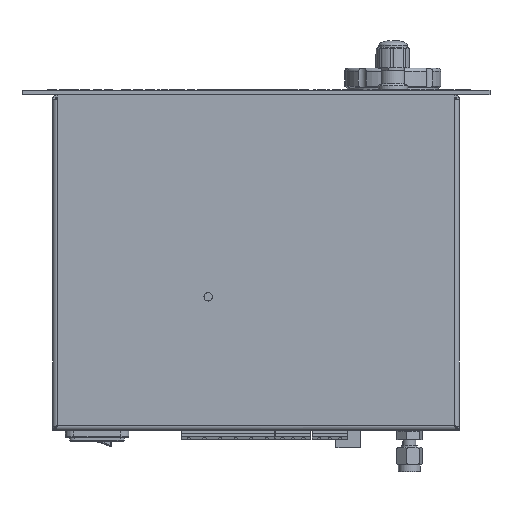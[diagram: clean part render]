
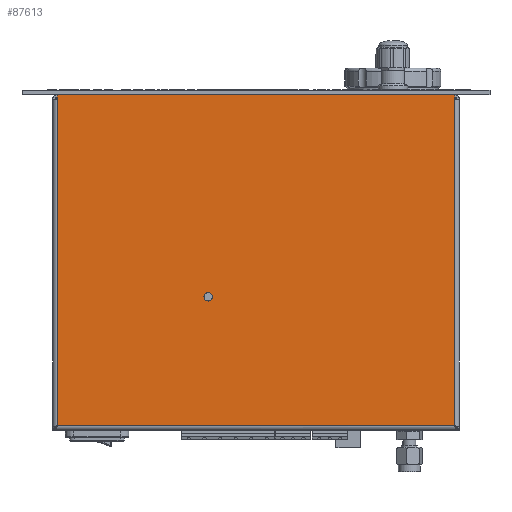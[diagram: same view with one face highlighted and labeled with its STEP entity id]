
A CAD part, front view. The second image highlights one B-rep face of the part: STEP entity #87613.
In plain terms, the highlighted planar face has unit normal (0, -1, 0).
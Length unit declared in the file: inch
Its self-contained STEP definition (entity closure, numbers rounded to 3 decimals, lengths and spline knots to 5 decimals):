
#2100 = VERTEX_POINT ( 'NONE', #42958 ) ;
#2314 = FACE_BOUND ( 'NONE', #119433, .T. ) ;
#4630 = VERTEX_POINT ( 'NONE', #40637 ) ;
#5048 = CARTESIAN_POINT ( 'NONE',  ( -3.82363, -0.05, 0. ) ) ;
#5157 = DIRECTION ( 'NONE',  ( 1., 0., 0. ) ) ;
#6487 = LINE ( 'NONE', #90138, #114194 ) ;
#9774 = EDGE_CURVE ( 'NONE', #132033, #95673, #25690, .T. ) ;
#9801 = VECTOR ( 'NONE', #98997, 39.37008 ) ;
#11121 = CARTESIAN_POINT ( 'NONE',  ( -3.84886, -0.05, -6.36563 ) ) ;
#17527 = VECTOR ( 'NONE', #103059, 39.37008 ) ;
#20053 = ORIENTED_EDGE ( 'NONE', *, *, #62995, .T. ) ;
#23089 = DIRECTION ( 'NONE',  ( 0., -1., 0. ) ) ;
#25649 = CARTESIAN_POINT ( 'NONE',  ( -3.913, -0.05, -6.455 ) ) ;
#25690 = LINE ( 'NONE', #5048, #9801 ) ;
#32929 = CARTESIAN_POINT ( 'NONE',  ( 3.82363, -0.05, -6.39086 ) ) ;
#33614 = CIRCLE ( 'NONE', #108638, 0.0815 ) ;
#34037 = PLANE ( 'NONE',  #42609 ) ;
#38437 = VERTEX_POINT ( 'NONE', #53346 ) ;
#39418 = VERTEX_POINT ( 'NONE', #123778 ) ;
#40637 = CARTESIAN_POINT ( 'NONE',  ( 3.82363, -0.05, -6.36563 ) ) ;
#41743 = EDGE_LOOP ( 'NONE', ( #104844, #112160, #20053, #127986, #132675, #101294 ) ) ;
#42609 = AXIS2_PLACEMENT_3D ( 'NONE', #25649, #45793, #68554 ) ;
#42675 = LINE ( 'NONE', #32929, #64526 ) ;
#42958 = CARTESIAN_POINT ( 'NONE',  ( -3.82363, -0.05, 0. ) ) ;
#45793 = DIRECTION ( 'NONE',  ( 0., -1., 0. ) ) ;
#48356 = LINE ( 'NONE', #92548, #105696 ) ;
#49038 = DIRECTION ( 'NONE',  ( 0., 0., -1. ) ) ;
#53346 = CARTESIAN_POINT ( 'NONE',  ( 3.82363, -0.05, 0. ) ) ;
#62995 = EDGE_CURVE ( 'NONE', #39418, #38437, #118651, .T. ) ;
#64393 = EDGE_CURVE ( 'NONE', #2100, #132033, #48356, .T. ) ;
#64526 = VECTOR ( 'NONE', #87562, 39.37008 ) ;
#66114 = VECTOR ( 'NONE', #96635, 39.37008 ) ;
#66861 = EDGE_CURVE ( 'NONE', #4630, #39418, #42675, .T. ) ;
#67588 = CARTESIAN_POINT ( 'NONE',  ( 3.82363, -0.05, -6.39086 ) ) ;
#68554 = DIRECTION ( 'NONE',  ( 1., 0., 0. ) ) ;
#81857 = EDGE_CURVE ( 'NONE', #88818, #88818, #33614, .T. ) ;
#82931 = EDGE_CURVE ( 'NONE', #2100, #38437, #6487, .T. ) ;
#85379 = CARTESIAN_POINT ( 'NONE',  ( -0.919, -0.05, -3.884 ) ) ;
#87562 = DIRECTION ( 'NONE',  ( 0., 0., 1. ) ) ;
#87613 = ADVANCED_FACE ( 'NONE', ( #2314, #109935 ), #34037, .T. ) ;
#88818 = VERTEX_POINT ( 'NONE', #130841 ) ;
#90138 = CARTESIAN_POINT ( 'NONE',  ( -3.913, -0.05, 0. ) ) ;
#92548 = CARTESIAN_POINT ( 'NONE',  ( -3.82363, -0.05, 0. ) ) ;
#95673 = VERTEX_POINT ( 'NONE', #96453 ) ;
#96453 = CARTESIAN_POINT ( 'NONE',  ( -3.82363, -0.05, -6.36563 ) ) ;
#96635 = DIRECTION ( 'NONE',  ( 0., 0., 1. ) ) ;
#98997 = DIRECTION ( 'NONE',  ( 0., 0., -1. ) ) ;
#101294 = ORIENTED_EDGE ( 'NONE', *, *, #9774, .T. ) ;
#103059 = DIRECTION ( 'NONE',  ( 1., 0., 0. ) ) ;
#104844 = ORIENTED_EDGE ( 'NONE', *, *, #120296, .T. ) ;
#105696 = VECTOR ( 'NONE', #49038, 39.37008 ) ;
#106696 = DIRECTION ( 'NONE',  ( 1., 0., 0. ) ) ;
#107858 = CARTESIAN_POINT ( 'NONE',  ( -3.82363, -0.05, -0.08937 ) ) ;
#108638 = AXIS2_PLACEMENT_3D ( 'NONE', #85379, #23089, #106696 ) ;
#109935 = FACE_OUTER_BOUND ( 'NONE', #41743, .T. ) ;
#112160 = ORIENTED_EDGE ( 'NONE', *, *, #66861, .T. ) ;
#114194 = VECTOR ( 'NONE', #5157, 39.37008 ) ;
#115446 = LINE ( 'NONE', #11121, #17527 ) ;
#118651 = LINE ( 'NONE', #67588, #66114 ) ;
#119433 = EDGE_LOOP ( 'NONE', ( #131319 ) ) ;
#120296 = EDGE_CURVE ( 'NONE', #95673, #4630, #115446, .T. ) ;
#123778 = CARTESIAN_POINT ( 'NONE',  ( 3.82363, -0.05, -0.08937 ) ) ;
#127986 = ORIENTED_EDGE ( 'NONE', *, *, #82931, .F. ) ;
#130841 = CARTESIAN_POINT ( 'NONE',  ( -0.8375, -0.05, -3.884 ) ) ;
#131319 = ORIENTED_EDGE ( 'NONE', *, *, #81857, .F. ) ;
#132033 = VERTEX_POINT ( 'NONE', #107858 ) ;
#132675 = ORIENTED_EDGE ( 'NONE', *, *, #64393, .T. ) ;
